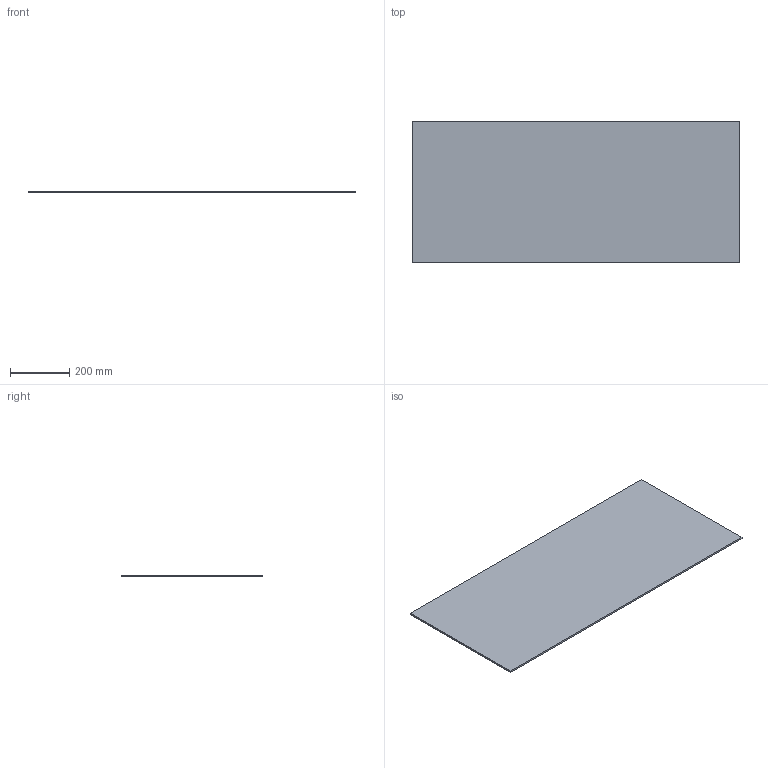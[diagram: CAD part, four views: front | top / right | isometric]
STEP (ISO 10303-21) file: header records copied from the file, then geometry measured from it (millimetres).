
FILE_DESCRIPTION (( 'STEP AP214' ), '1' );
FILE_NAME ('Lochblech_NL500_KAB1200_16.step', '2010-10-11T13:38:36', ( 'grass' ), ( '' ), 'SwSTEP 2.0', 'SolidWorks 2010', '' );
FILE_SCHEMA (( 'AUTOMOTIVE_DESIGN' ));
Length unit declared in the file: millimetre
Products named in the file (1): Lochblech_NL500_KAB1200_16
Bounding box: 1108 x 479 x 6 mm (x, y, z)
Volume: 3184392 mm3; surface area: 1080508 mm2
Topology: 1 solids, 1 shells, 6 faces, 12 edges, 8 vertices
Faces by surface type: plane 6
Entity records: 190 total; most frequent: CARTESIAN_POINT 27, DIRECTION 26, ORIENTED_EDGE 24, EDGE_CURVE 12, LINE 12, VECTOR 12, VERTEX_POINT 8, AXIS2_PLACEMENT_3D 7
